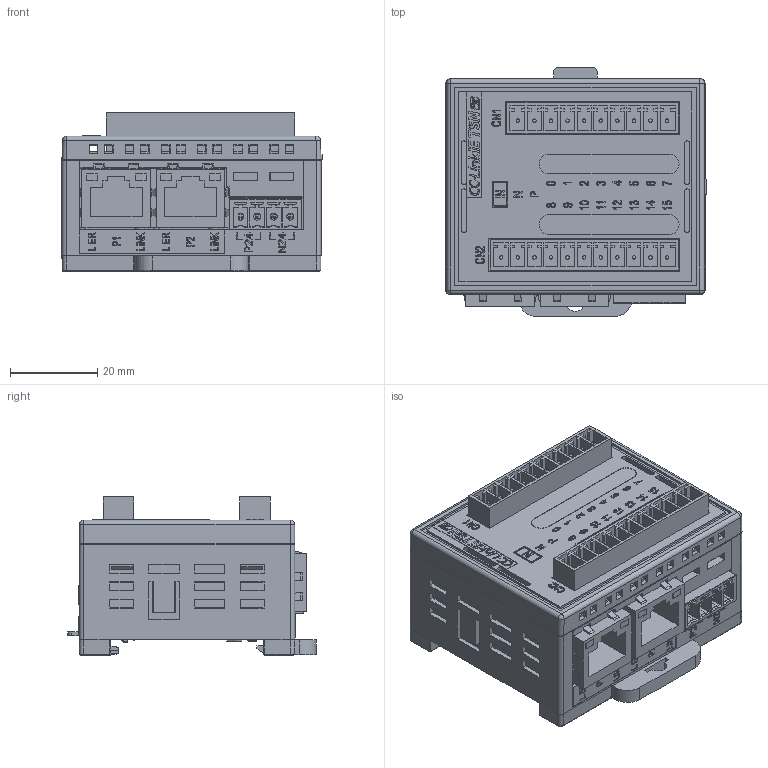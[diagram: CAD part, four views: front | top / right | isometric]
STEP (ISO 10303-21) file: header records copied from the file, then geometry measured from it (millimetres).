
FILE_DESCRIPTION((''),'2;1');
FILE_NAME('CTCBPF0','2026-05-11T14:58:31',('gijyu181'),(''),'CREO PARAMETRIC BY PTC INC, 2018050','CREO PARAMETRIC BY PTC INC, 2018050','');
FILE_SCHEMA(('CONFIG_CONTROL_DESIGN','SHAPE_APPEARANCE_LAYERS_GROUPS'));
Products named in the file (1): CTCBPF0
Bounding box: 59.75 x 57.15 x 36.3 mm (x, y, z)
Volume: 68582.9 mm3; surface area: 40962.6 mm2
Topology: 2 solids, 18 shells, 6006 faces, 16565 edges, 10937 vertices
Faces by surface type: plane 4469, cylinder 721, extrusion 680, sphere 44, cone 42, torus 26, bspline 24
Entity records: 241660 total; most frequent: CARTESIAN_POINT 42805, ORIENTED_EDGE 33094, DIRECTION 27623, EDGE_CURVE 16551, VECTOR 14077, LINE 13397, VERTEX_POINT 10937, PRESENTATION_STYLE_ASSIGNMENT 9466
